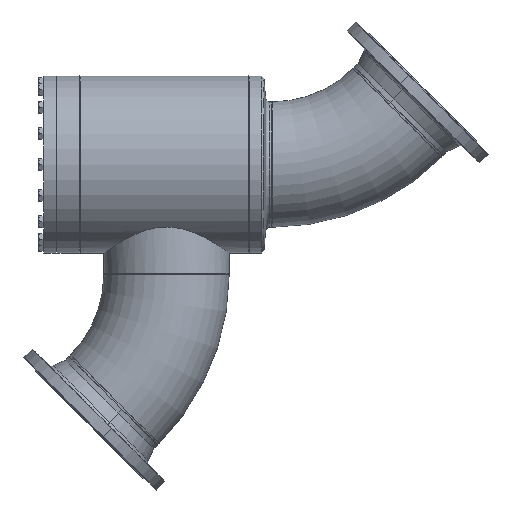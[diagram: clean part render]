
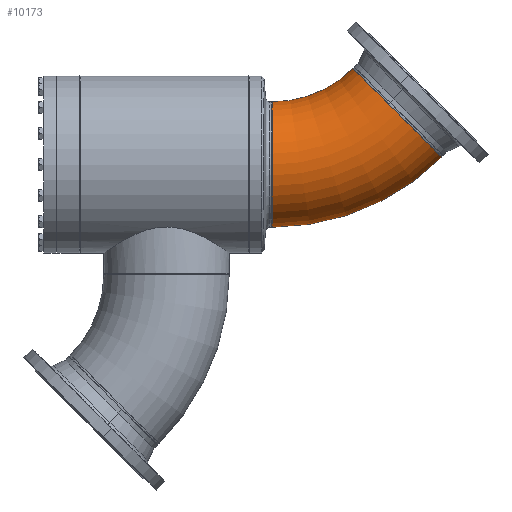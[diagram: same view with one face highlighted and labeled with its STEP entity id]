
A CAD part, left-side view. The second image highlights one B-rep face of the part: STEP entity #10173.
In plain terms, the highlighted toroidal (fillet/blend) face has major radius 457 mm and minor radius 161.95 mm.
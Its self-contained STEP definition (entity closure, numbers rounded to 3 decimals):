
#821 = CIRCLE ( 'NONE', #822, 161.95 ) ;
#822 = AXIS2_PLACEMENT_3D ( 'NONE', #823, #824, #825 ) ;
#823 = CARTESIAN_POINT ( 'NONE',  ( 0., 0., 0. ) ) ;
#824 = DIRECTION ( 'NONE',  ( 1., 0., 0. ) ) ;
#825 = DIRECTION ( 'NONE',  ( 0., 0., -1. ) ) ;
#2900 = CIRCLE ( 'NONE', #2901, 161.95 ) ;
#2901 = AXIS2_PLACEMENT_3D ( 'NONE', #2902, #2903, #2904 ) ;
#2902 = CARTESIAN_POINT ( 'NONE',  ( 323.148, -133.852, 0. ) ) ;
#2903 = DIRECTION ( 'NONE',  ( 0.707, -0.707, 0. ) ) ;
#2904 = DIRECTION ( 'NONE',  ( 0., 0., -1. ) ) ;
#3747 = EDGE_CURVE ( 'NONE', #7319, #7935, #821, .T. ) ;
#4108 = ORIENTED_EDGE ( 'NONE', *, *, #3747, .T. ) ;
#4434 = CIRCLE ( 'NONE', #4435, 295.05 ) ;
#4435 = AXIS2_PLACEMENT_3D ( 'NONE', #4436, #4437, #4438 ) ;
#4436 = CARTESIAN_POINT ( 'NONE',  ( 0., -457., 0. ) ) ;
#4437 = DIRECTION ( 'NONE',  ( 0., 0., 1. ) ) ;
#4438 = DIRECTION ( 'NONE',  ( 1., 0., 0. ) ) ;
#4625 = ORIENTED_EDGE ( 'NONE', *, *, #6440, .T. ) ;
#4961 = FACE_OUTER_BOUND ( 'NONE', #9929, .T. ) ;
#4962 = TOROIDAL_SURFACE ( 'NONE', #4963, 457., 161.95 ) ;
#4963 = AXIS2_PLACEMENT_3D ( 'NONE', #4964, #4965, #4966 ) ;
#4964 = CARTESIAN_POINT ( 'NONE',  ( 0., -457., 0. ) ) ;
#4965 = DIRECTION ( 'NONE',  ( 0., 0., 1. ) ) ;
#4966 = DIRECTION ( 'NONE',  ( 1., 0., 0. ) ) ;
#5140 = EDGE_CURVE ( 'NONE', #8082, #8109, #2900, .T. ) ;
#5287 = CARTESIAN_POINT ( 'NONE',  ( 0., -161.95, 0. ) ) ;
#5512 = ORIENTED_EDGE ( 'NONE', *, *, #5140, .F. ) ;
#6440 = EDGE_CURVE ( 'NONE', #8082, #7319, #4434, .T. ) ;
#6616 = CARTESIAN_POINT ( 'NONE',  ( 0., 161.95, 0. ) ) ;
#6704 = CIRCLE ( 'NONE', #6705, 618.95 ) ;
#6705 = AXIS2_PLACEMENT_3D ( 'NONE', #6706, #6707, #6708 ) ;
#6706 = CARTESIAN_POINT ( 'NONE',  ( 0., -457., 0. ) ) ;
#6707 = DIRECTION ( 'NONE',  ( 0., 0., 1. ) ) ;
#6708 = DIRECTION ( 'NONE',  ( 1., 0., 0. ) ) ;
#7319 = VERTEX_POINT ( 'NONE', #5287 ) ;
#7935 = VERTEX_POINT ( 'NONE', #6616 ) ;
#7964 = EDGE_CURVE ( 'NONE', #8109, #7935, #6704, .T. ) ;
#8082 = VERTEX_POINT ( 'NONE', #9198 ) ;
#8109 = VERTEX_POINT ( 'NONE', #9371 ) ;
#9198 = CARTESIAN_POINT ( 'NONE',  ( 208.632, -248.368, 0. ) ) ;
#9252 = ORIENTED_EDGE ( 'NONE', *, *, #7964, .F. ) ;
#9371 = CARTESIAN_POINT ( 'NONE',  ( 437.664, -19.336, 0. ) ) ;
#9929 = EDGE_LOOP ( 'NONE', ( #9252, #5512, #4625, #4108 ) ) ;
#10173 = ADVANCED_FACE ( 'NONE', ( #4961 ), #4962, .T. ) ;
